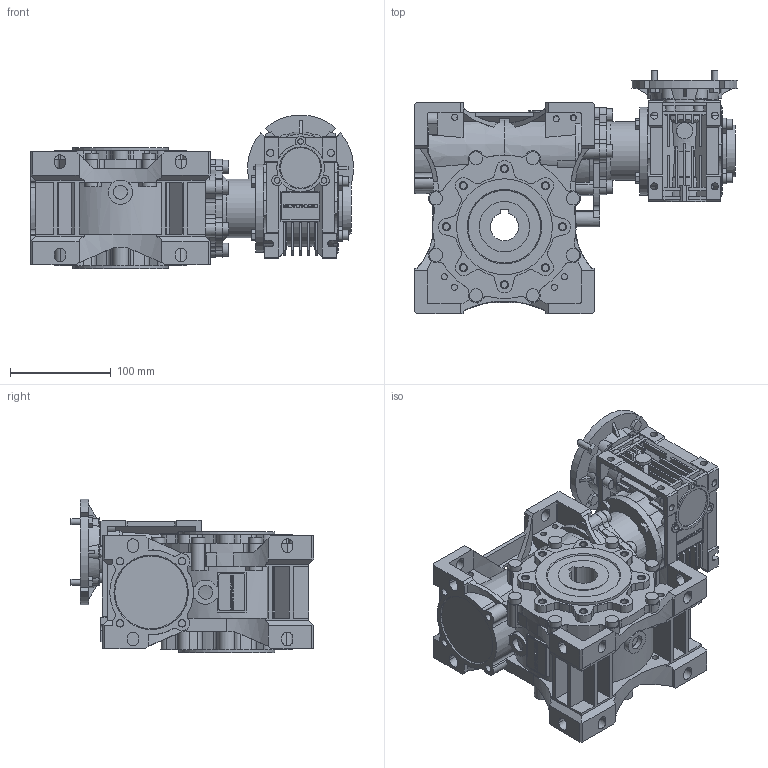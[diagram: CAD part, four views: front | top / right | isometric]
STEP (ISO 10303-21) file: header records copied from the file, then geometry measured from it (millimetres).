
FILE_DESCRIPTION(/* description */ ('STEP AP214'),/* implementation_level */ '2;1');
FILE_NAME(/* name */ 'NMRVP-NMRVP 040-075 100 (10x10) VS2 105x14 18 NO 28 NO NO - - NO - - - NO NO - --(--------)',/* time_stamp */ '2024-10-24T10:57:27+02:00',/* author */ ('License CC BY-ND 4.0'),/* organization */ ('CADENAS'),/* preprocessor_version */ 'ST-DEVELOPER v19.3',/* originating_system */ 'PARTsolutions',/* authorisation */ ' ');
FILE_SCHEMA (('AUTOMOTIVE_DESIGN {1 0 10303 214 3 1 1}'));
Products named in the file (11): NMRVP-NMRVP 040-075 100 (10x10) VS2 105x14 18 NO 28 NO NO - - NO - - 
- NO NO - --(--------); W.075.01.M; 075-28 (120); W.075.14.24.M-p; 040-075-TRA; W.040.01.M; 040-18 (78); VB 040-14 (14)-p; 4071 B14; Corona 40-p; 75-50
Assembly tree (10 placements, depth 2):
  NMRVP-NMRVP 040-075 100 (10x10) VS2 105x14 18 NO 28 NO NO - - NO - - 
- NO NO - --(--------)
    W.075.01.M
    075-28 (120)
    W.075.14.24.M-p
    040-075-TRA
    W.040.01.M
    040-18 (78)
    VB 040-14 (14)-p
    4071 B14
    Corona 40-p
    75-50
Bounding box: 319.83 x 241 x 152.33 mm (x, y, z)
Volume: 3557416.2 mm3; surface area: 564510.5 mm2
Topology: 10 solids, 16 shells, 2225 faces, 6033 edges, 3965 vertices
Faces by surface type: plane 1409, cylinder 711, cone 101, torus 4
Full cylindrical faces by diameter (mm): 4.917 x8, 5.55 x3, 6 x18, 6.647 x16, 7 x6, 7.26 x12, 10 x11, 10.8 x4, 11 x6, 13 x14, 14 x3, 16 x1, 23 x2, 24 x1, 28 x1, 29 x1, 30 x2, 31 x1, 35 x1, 36 x1, 40 x2, 42 x1, 47 x1, 48 x1, 50 x3, 58 x1, 60 x3, 68 x4, 70 x1, 75 x1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
Entity records: 84996 total; most frequent: CARTESIAN_POINT 13149, DIRECTION 11809, ORIENTED_EDGE 11632, EDGE_CURVE 5816, AXIS2_PLACEMENT_3D 4083, VERTEX_POINT 3932, LINE 3643, VECTOR 3643
